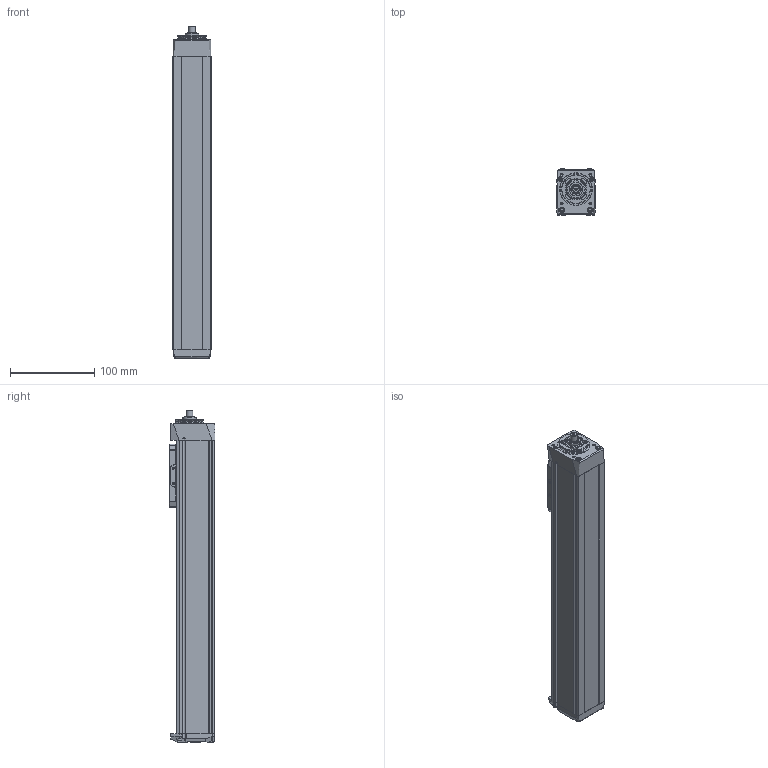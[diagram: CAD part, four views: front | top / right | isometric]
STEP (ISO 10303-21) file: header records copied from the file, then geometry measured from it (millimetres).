
FILE_DESCRIPTION(/* description */ ('STEP AP214'),/* implementation_level */ '2;1');
FILE_NAME(/* name */ 'MGBS 45 1003 250(0)',/* time_stamp */ '2023-04-12T11:07:08+02:00',/* author */ ('License CC BY-ND 4.0'),/* organization */ ('CADENAS'),/* preprocessor_version */ 'ST-DEVELOPER v19.3',/* originating_system */ 'PARTsolutions',/* authorisation */ ' ');
FILE_SCHEMA (('AUTOMOTIVE_DESIGN {1 0 10303 214 3 1 1}'));
Length unit declared in the file: millimetre
Products named in the file (6): MGBS 45 1003 250(0); MGBS 45 250_protection_strip; MGBS 45_carriage; MGBS 45_end_block; MGBS 45 250_profile; MGBS 45_drive_block
Assembly tree (5 placements, depth 2):
  MGBS 45 1003 250(0)
    MGBS 45 250_protection_strip
    MGBS 45_carriage
    MGBS 45_end_block
    MGBS 45 250_profile
    MGBS 45_drive_block
Bounding box: 45 x 54 x 393 mm (x, y, z)
Volume: 757662.8 mm3; surface area: 130726.9 mm2
Topology: 5 solids, 5 shells, 655 faces, 1721 edges, 1113 vertices
Faces by surface type: plane 312, cylinder 156, cone 94, bspline 64, torus 27, sphere 2
Full cylindrical faces by diameter (mm): 1 x1, 1.755 x4, 2.459 x6, 2.46 x2, 2.5 x8, 3 x4, 3.242 x8, 3.8 x6, 4 x2, 4.5 x4, 5 x2, 5.5 x4, 6.5 x4, 8 x1, 11 x2, 16 x1, 24.5 x1, 34 x2, 38.2 x1
Entity records: 23967 total; most frequent: CARTESIAN_POINT 4130, DIRECTION 3272, ORIENTED_EDGE 3064, EDGE_CURVE 1532, AXIS2_PLACEMENT_3D 1183, VERTEX_POINT 1095, LINE 906, VECTOR 906
